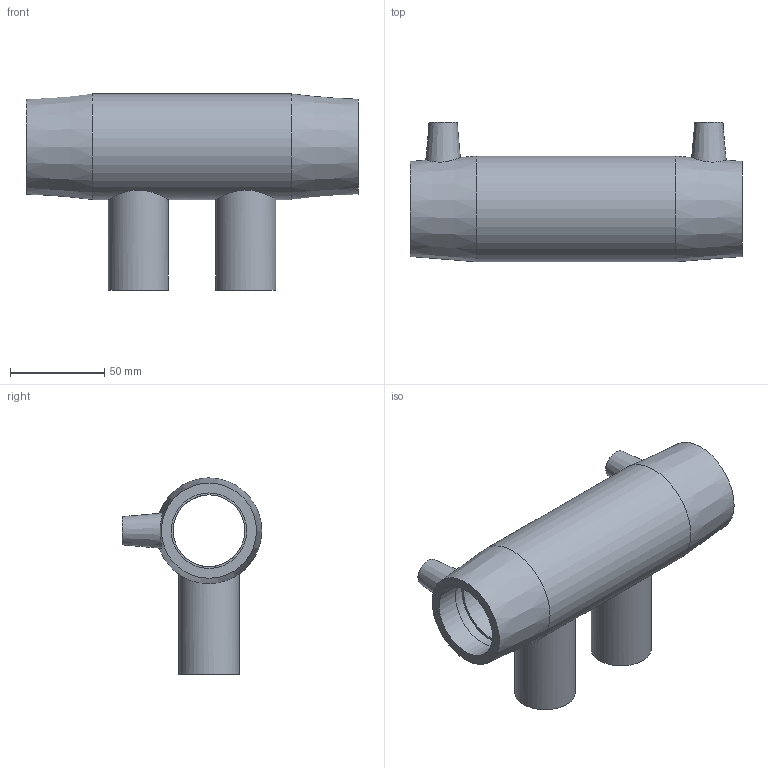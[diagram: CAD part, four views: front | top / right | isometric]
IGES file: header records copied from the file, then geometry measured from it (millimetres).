
Global section: file name: 492404040032.ipt; native system: Autodesk Inventor 2015; preprocessor: unknown; author: KIM; date: 20171106.093918; units: millimetre
Bounding box: 176 x 74 x 104 mm (x, y, z)
Volume: 231026.5 mm3; surface area: 74716.5 mm2
Topology: 1 solids, 1 shells, 34 faces, 80 edges, 58 vertices
Faces by surface type: plane 14, revolution 11, cylinder 5, cone 4
Full cylindrical faces by diameter (mm): 4 x2, 32 x2, 56 x1
